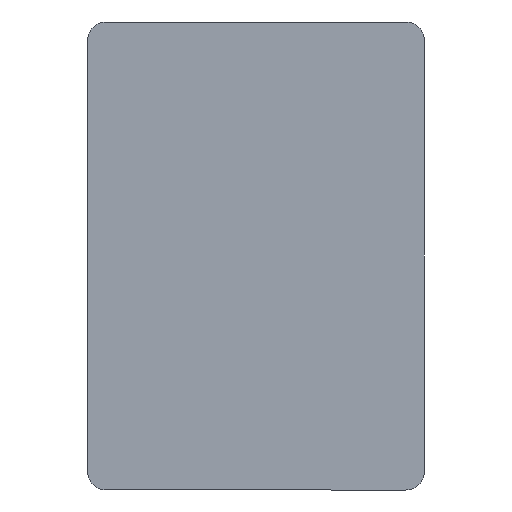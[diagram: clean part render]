
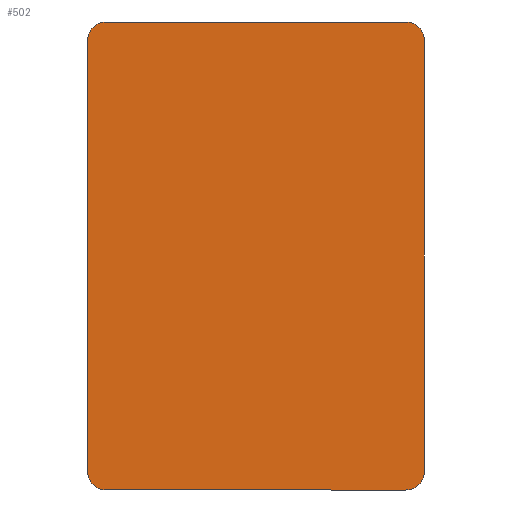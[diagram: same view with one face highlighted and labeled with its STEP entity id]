
A CAD part, front view. The second image highlights one B-rep face of the part: STEP entity #502.
In plain terms, the highlighted planar face has unit normal (0, -1, 0).
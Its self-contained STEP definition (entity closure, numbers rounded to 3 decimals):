
#8 = CARTESIAN_POINT ( 'NONE',  ( -16., -5., 25. ) ) ;
#11 = PLANE ( 'NONE',  #516 ) ;
#31 = DIRECTION ( 'NONE',  ( 0., 0., 1. ) ) ;
#64 = VERTEX_POINT ( 'NONE', #278 ) ;
#66 = EDGE_CURVE ( 'NONE', #332, #64, #423, .T. ) ;
#84 = CIRCLE ( 'NONE', #467, 2. ) ;
#104 = DIRECTION ( 'NONE',  ( 0., 1., 0. ) ) ;
#118 = CARTESIAN_POINT ( 'NONE',  ( -18., -5., 25. ) ) ;
#122 = CARTESIAN_POINT ( 'NONE',  ( 18., -5., 23. ) ) ;
#135 = CARTESIAN_POINT ( 'NONE',  ( 16., -5., -23. ) ) ;
#143 = DIRECTION ( 'NONE',  ( 0., 0., -1. ) ) ;
#149 = VERTEX_POINT ( 'NONE', #155 ) ;
#151 = LINE ( 'NONE', #434, #341 ) ;
#152 = ORIENTED_EDGE ( 'NONE', *, *, #66, .F. ) ;
#155 = CARTESIAN_POINT ( 'NONE',  ( -16., -5., -25. ) ) ;
#160 = DIRECTION ( 'NONE',  ( -1., 0., 0. ) ) ;
#166 = ORIENTED_EDGE ( 'NONE', *, *, #300, .T. ) ;
#171 = DIRECTION ( 'NONE',  ( 0., 0., 1. ) ) ;
#172 = ORIENTED_EDGE ( 'NONE', *, *, #373, .T. ) ;
#178 = ORIENTED_EDGE ( 'NONE', *, *, #469, .T. ) ;
#179 = CARTESIAN_POINT ( 'NONE',  ( -18., -5., 23. ) ) ;
#185 = FACE_OUTER_BOUND ( 'NONE', #195, .T. ) ;
#189 = AXIS2_PLACEMENT_3D ( 'NONE', #395, #539, #171 ) ;
#195 = EDGE_LOOP ( 'NONE', ( #262, #178, #259, #492, #152, #166, #443, #172 ) ) ;
#210 = VERTEX_POINT ( 'NONE', #8 ) ;
#223 = CARTESIAN_POINT ( 'NONE',  ( 16., -5., 23. ) ) ;
#227 = VECTOR ( 'NONE', #306, 1000. ) ;
#232 = EDGE_CURVE ( 'NONE', #270, #149, #482, .T. ) ;
#235 = EDGE_CURVE ( 'NONE', #210, #407, #151, .T. ) ;
#238 = CARTESIAN_POINT ( 'NONE',  ( 16., -5., -25. ) ) ;
#259 = ORIENTED_EDGE ( 'NONE', *, *, #232, .F. ) ;
#262 = ORIENTED_EDGE ( 'NONE', *, *, #410, .F. ) ;
#270 = VERTEX_POINT ( 'NONE', #238 ) ;
#278 = CARTESIAN_POINT ( 'NONE',  ( 18., -5., -23. ) ) ;
#298 = DIRECTION ( 'NONE',  ( 0., -1., 0. ) ) ;
#300 = EDGE_CURVE ( 'NONE', #332, #407, #84, .T. ) ;
#304 = CARTESIAN_POINT ( 'NONE',  ( -16., -5., -23. ) ) ;
#306 = DIRECTION ( 'NONE',  ( 0., 0., 1. ) ) ;
#316 = CARTESIAN_POINT ( 'NONE',  ( 16., -5., 25. ) ) ;
#332 = VERTEX_POINT ( 'NONE', #122 ) ;
#341 = VECTOR ( 'NONE', #521, 1000. ) ;
#353 = LINE ( 'NONE', #118, #227 ) ;
#359 = CARTESIAN_POINT ( 'NONE',  ( -18., -5., -23. ) ) ;
#370 = CARTESIAN_POINT ( 'NONE',  ( 18., -5., 25. ) ) ;
#373 = EDGE_CURVE ( 'NONE', #210, #384, #422, .T. ) ;
#378 = DIRECTION ( 'NONE',  ( 0., -1., 0. ) ) ;
#383 = CIRCLE ( 'NONE', #541, 2. ) ;
#384 = VERTEX_POINT ( 'NONE', #179 ) ;
#385 = CARTESIAN_POINT ( 'NONE',  ( 18., -5., -25. ) ) ;
#395 = CARTESIAN_POINT ( 'NONE',  ( -16., -5., 23. ) ) ;
#399 = VERTEX_POINT ( 'NONE', #359 ) ;
#407 = VERTEX_POINT ( 'NONE', #316 ) ;
#410 = EDGE_CURVE ( 'NONE', #399, #384, #353, .T. ) ;
#412 = VECTOR ( 'NONE', #143, 1000. ) ;
#414 = EDGE_CURVE ( 'NONE', #270, #64, #498, .T. ) ;
#422 = CIRCLE ( 'NONE', #189, 2. ) ;
#423 = LINE ( 'NONE', #370, #412 ) ;
#434 = CARTESIAN_POINT ( 'NONE',  ( 18., -5., 25. ) ) ;
#443 = ORIENTED_EDGE ( 'NONE', *, *, #235, .F. ) ;
#444 = DIRECTION ( 'NONE',  ( 0., 0., 1. ) ) ;
#453 = DIRECTION ( 'NONE',  ( 0., 0., 1. ) ) ;
#457 = DIRECTION ( 'NONE',  ( 0., 0., 1. ) ) ;
#467 = AXIS2_PLACEMENT_3D ( 'NONE', #223, #298, #444 ) ;
#469 = EDGE_CURVE ( 'NONE', #399, #149, #383, .T. ) ;
#482 = LINE ( 'NONE', #385, #514 ) ;
#490 = DIRECTION ( 'NONE',  ( 0., -1., 0. ) ) ;
#492 = ORIENTED_EDGE ( 'NONE', *, *, #414, .T. ) ;
#498 = CIRCLE ( 'NONE', #560, 2. ) ;
#502 = ADVANCED_FACE ( 'NONE', ( #185 ), #11, .F. ) ;
#514 = VECTOR ( 'NONE', #160, 1000. ) ;
#516 = AXIS2_PLACEMENT_3D ( 'NONE', #559, #104, #453 ) ;
#521 = DIRECTION ( 'NONE',  ( 1., 0., 0. ) ) ;
#539 = DIRECTION ( 'NONE',  ( 0., -1., 0. ) ) ;
#541 = AXIS2_PLACEMENT_3D ( 'NONE', #304, #490, #31 ) ;
#559 = CARTESIAN_POINT ( 'NONE',  ( 0., -5., 0. ) ) ;
#560 = AXIS2_PLACEMENT_3D ( 'NONE', #135, #378, #457 ) ;
